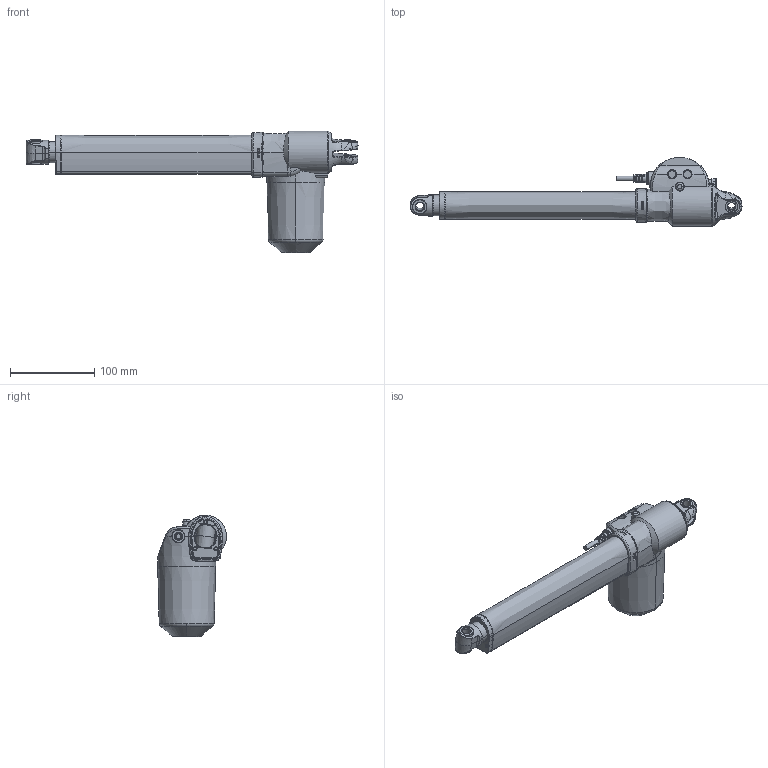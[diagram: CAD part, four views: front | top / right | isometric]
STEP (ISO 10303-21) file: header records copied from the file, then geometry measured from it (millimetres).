
FILE_DESCRIPTION((''),'2;1');
FILE_NAME('KA30_3D_STANDARD_MOTOR_AND_STAN','2023-12-14T11:39:02',('cnkz2'),(''),'CREO PARAMETRIC BY PTC INC, 2022024','CREO PARAMETRIC BY PTC INC, 2022024','');
FILE_SCHEMA(('CONFIG_CONTROL_DESIGN'));
Length unit declared in the file: millimetre
Products named in the file (1): KA30_3D_STANDARD_MOTOR_AND_STAN
Bounding box: 394.19 x 81.98 x 144.45 mm (x, y, z)
Volume: 895104.4 mm3; surface area: 87458.7 mm2
Topology: 1 solids, 23 shells, 841 faces, 2263 edges, 1529 vertices
Faces by surface type: plane 288, cylinder 228, bspline 118, cone 105, torus 85, extrusion 14, sphere 3
Entity records: 37205 total; most frequent: CARTESIAN_POINT 17076, ORIENTED_EDGE 4522, DIRECTION 3810, EDGE_CURVE 2261, AXIS2_PLACEMENT_3D 1582, VERTEX_POINT 1529, EDGE_LOOP 914, CIRCLE 870
